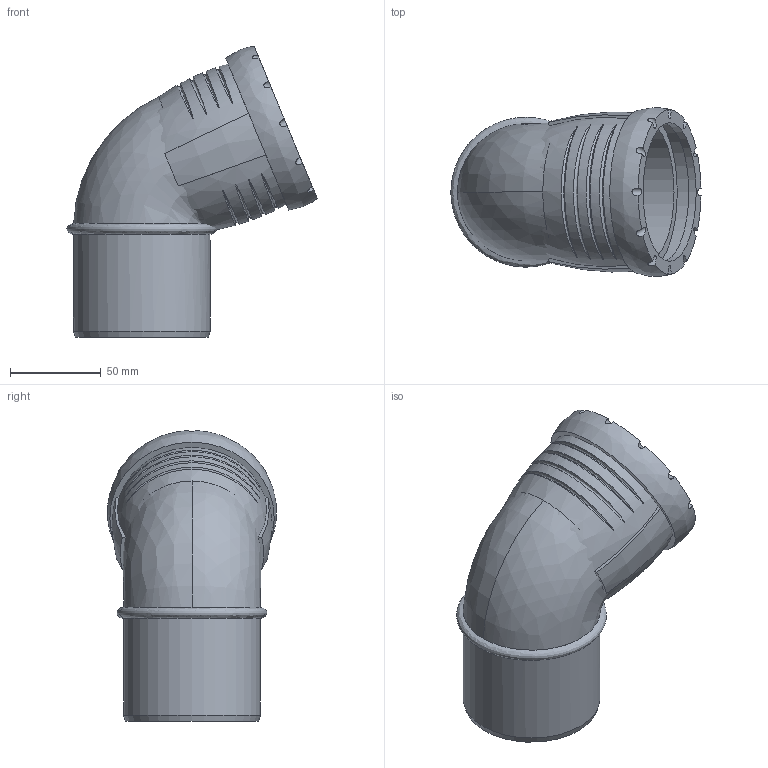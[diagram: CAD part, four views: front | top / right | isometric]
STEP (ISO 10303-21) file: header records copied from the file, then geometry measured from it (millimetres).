
FILE_DESCRIPTION(/* description */ (''),/* implementation_level */ '2;1');
FILE_NAME(/* name */ 'H:\Geberit-Teile\Export\Bogen_TEST\stp\393323.stp',/* time_stamp */ '2017-02-14T10:07:45+01:00',/* author */ ('seihe2'),/* organization */ (''),/* preprocessor_version */ 'ST-DEVELOPER v15.2',/* originating_system */ 'Autodesk Inventor 2014',/* authorisation */ '');
FILE_SCHEMA (('AUTOMOTIVE_DESIGN { 1 0 10303 214 3 1 1 }'));
Length unit declared in the file: millimetre
Products named in the file (1): 393323
Bounding box: 137.52 x 92.99 x 159.98 mm (x, y, z)
Volume: 367133.8 mm3; surface area: 93341.1 mm2
Topology: 2 solids, 2 shells, 58 faces, 144 edges, 101 vertices
Faces by surface type: bspline 26, cylinder 20, plane 10, cone 2
Full cylindrical faces by diameter (mm): 56 x1, 67.6 x1, 75.2 x1, 75.9 x1, 76.2 x1, 85 x1
Entity records: 4453 total; most frequent: CARTESIAN_POINT 3148, ORIENTED_EDGE 274, DIRECTION 202, EDGE_CURVE 136, VERTEX_POINT 101, AXIS2_PLACEMENT_3D 99, EDGE_LOOP 80, B_SPLINE_CURVE_WITH_KNOTS 64
